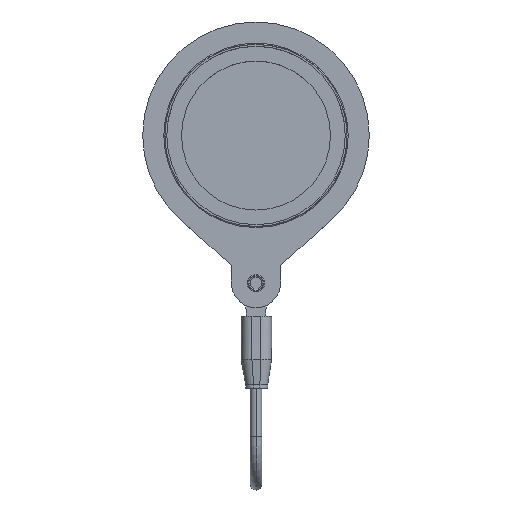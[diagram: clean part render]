
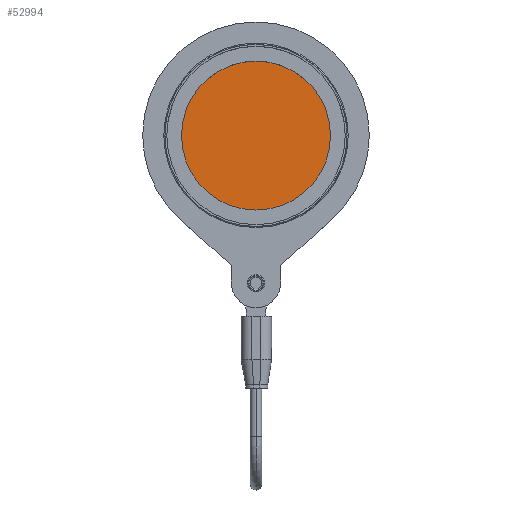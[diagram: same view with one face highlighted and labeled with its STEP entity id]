
A CAD part, top view. The second image highlights one B-rep face of the part: STEP entity #52994.
In plain terms, the highlighted planar face has unit normal (0, 0, 1) as drawn and (0, 0, -1) by its records, which use the part's own axes.
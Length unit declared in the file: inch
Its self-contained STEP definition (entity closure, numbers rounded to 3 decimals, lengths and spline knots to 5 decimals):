
#314 = DIRECTION ( 'NONE',  ( -1., 0., 0. ) ) ;
#4555 = CARTESIAN_POINT ( 'NONE',  ( 0., 0., -0.38 ) ) ;
#5253 = DIRECTION ( 'NONE',  ( -1., 0., 0. ) ) ;
#5324 = DIRECTION ( 'NONE',  ( -1., 0., 0. ) ) ;
#5684 = PLANE ( 'NONE',  #61348 ) ;
#8813 = CARTESIAN_POINT ( 'NONE',  ( 0.625, 0., -0.38 ) ) ;
#17134 = DIRECTION ( 'NONE',  ( 0., 0., -1. ) ) ;
#21253 = CIRCLE ( 'NONE', #39566, 0.625 ) ;
#22002 = EDGE_LOOP ( 'NONE', ( #51338, #42146 ) ) ;
#22698 = CARTESIAN_POINT ( 'NONE',  ( -0.625, 0., -0.38 ) ) ;
#30464 = EDGE_CURVE ( 'NONE', #61606, #50173, #21253, .T. ) ;
#37304 = AXIS2_PLACEMENT_3D ( 'NONE', #4555, #43205, #5253 ) ;
#37877 = CARTESIAN_POINT ( 'NONE',  ( 0., 0., -0.38 ) ) ;
#38475 = CIRCLE ( 'NONE', #37304, 0.625 ) ;
#39312 = CARTESIAN_POINT ( 'NONE',  ( 0., 0.625, -0.38 ) ) ;
#39566 = AXIS2_PLACEMENT_3D ( 'NONE', #37877, #54376, #5324 ) ;
#42146 = ORIENTED_EDGE ( 'NONE', *, *, #30464, .T. ) ;
#43205 = DIRECTION ( 'NONE',  ( 0., 0., -1. ) ) ;
#43990 = FACE_OUTER_BOUND ( 'NONE', #22002, .T. ) ;
#50173 = VERTEX_POINT ( 'NONE', #22698 ) ;
#51338 = ORIENTED_EDGE ( 'NONE', *, *, #53155, .T. ) ;
#52994 = ADVANCED_FACE ( 'NONE', ( #43990 ), #5684, .T. ) ;
#53155 = EDGE_CURVE ( 'NONE', #50173, #61606, #38475, .T. ) ;
#54376 = DIRECTION ( 'NONE',  ( 0., 0., -1. ) ) ;
#61348 = AXIS2_PLACEMENT_3D ( 'NONE', #39312, #17134, #314 ) ;
#61606 = VERTEX_POINT ( 'NONE', #8813 ) ;
